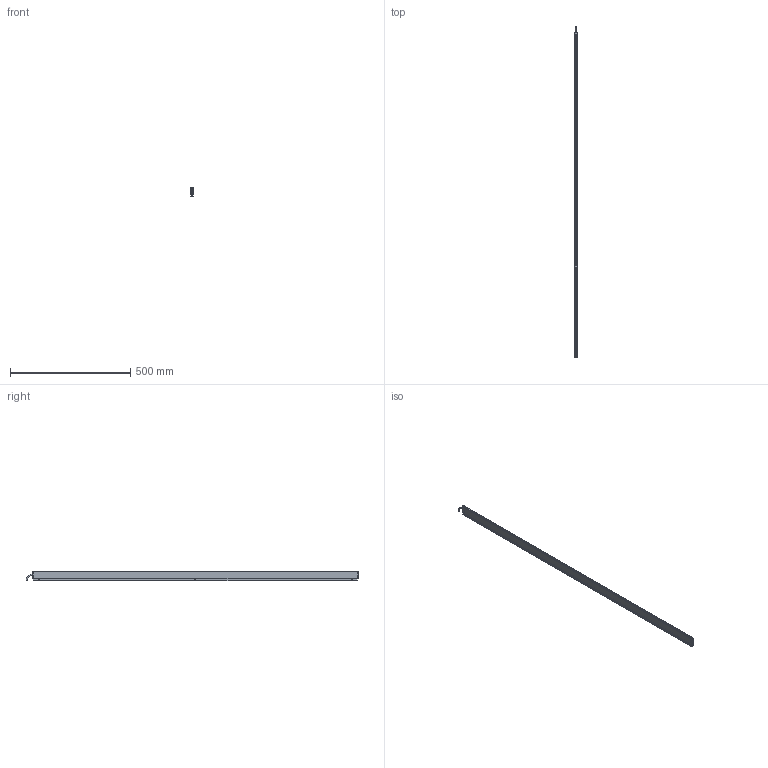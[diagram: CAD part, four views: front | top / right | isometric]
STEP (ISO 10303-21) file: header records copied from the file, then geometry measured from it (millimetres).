
FILE_DESCRIPTION (( 'STEP AP214' ), '1' );
FILE_NAME ('ILG-L-K1-1350mm.STEP', '2017-07-11T07:10:59', ( '' ), ( '' ), 'SwSTEP 2.0', 'SolidWorks 2016', '' );
FILE_SCHEMA (( 'AUTOMOTIVE_DESIGN' ));
Length unit declared in the file: millimetre
Products named in the file (1): ILG-L-K1-1350mm
Bounding box: 9 x 1378.25 x 40.71 mm (x, y, z)
Volume: 191431.2 mm3; surface area: 266286.4 mm2
Topology: 9 solids, 9 shells, 430 faces, 1108 edges, 698 vertices
Faces by surface type: plane 205, cylinder 151, cone 64, torus 10
Entity records: 17910 total; most frequent: CARTESIAN_POINT 2385, DIRECTION 2328, ORIENTED_EDGE 2200, EDGE_CURVE 1100, AXIS2_PLACEMENT_3D 849, VERTEX_POINT 698, VECTOR 630, LINE 630
